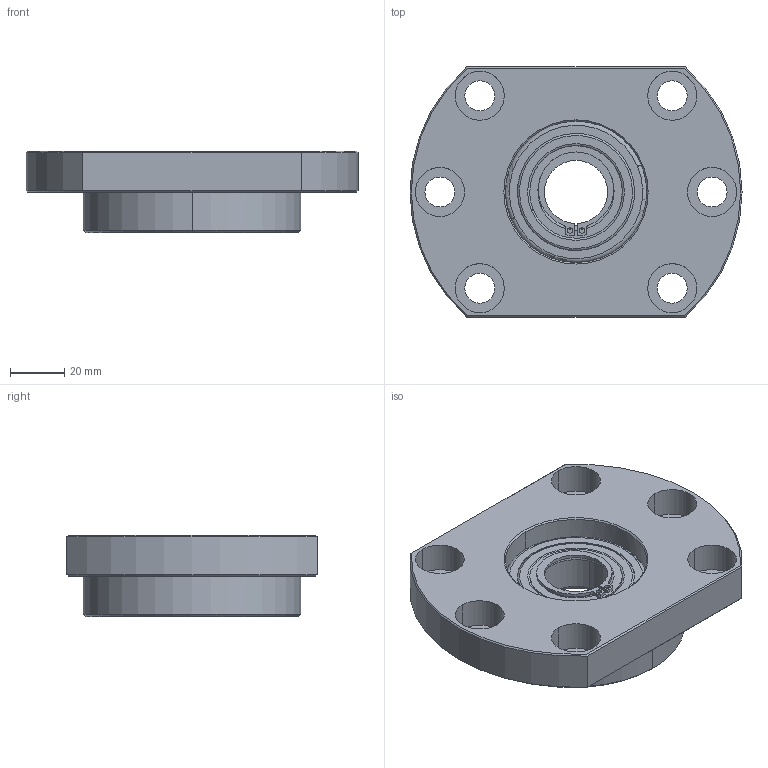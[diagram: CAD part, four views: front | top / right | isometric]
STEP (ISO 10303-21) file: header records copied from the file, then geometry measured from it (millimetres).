
FILE_DESCRIPTION (( 'STEP AP203' ), '1' );
FILE_NAME ('FF-25D-ASS''Y.STEP', '2016-07-18T08:22:55', ( '' ), ( '' ), 'SwSTEP 2.0', 'SolidWorks 2016', '' );
FILE_SCHEMA (( 'CONFIG_CONTROL_DESIGN' ));
Length unit declared in the file: millimetre
Products named in the file (1): FF-25D-ASS''Y
Bounding box: 122 x 92 x 30 mm (x, y, z)
Volume: 165370.4 mm3; surface area: 40267.5 mm2
Topology: 1 solids, 3 shells, 127 faces, 304 edges, 188 vertices
Faces by surface type: cylinder 64, plane 33, torus 20, cone 10
Entity records: 3873 total; most frequent: DIRECTION 746, CARTESIAN_POINT 644, ORIENTED_EDGE 608, AXIS2_PLACEMENT_3D 322, EDGE_CURVE 304, CIRCLE 194, VERTEX_POINT 188, EDGE_LOOP 158
